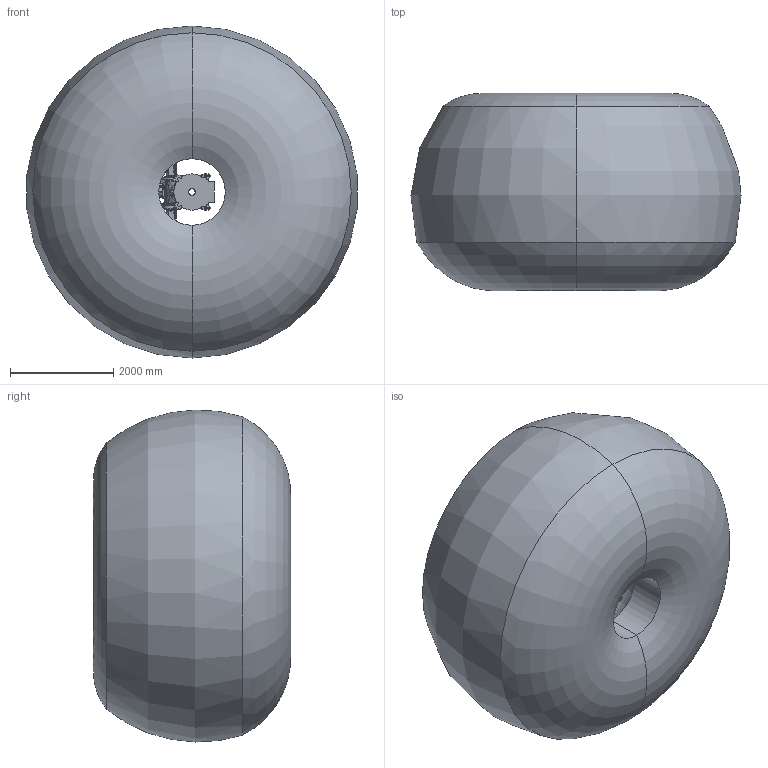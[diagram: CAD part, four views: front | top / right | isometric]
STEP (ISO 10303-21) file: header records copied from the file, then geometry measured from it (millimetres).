
FILE_DESCRIPTION (( 'STEP AP214' ), '1' );
FILE_NAME ('SMART-5 NJ-100-3.2P (3D-STEP).STEP', '2012-07-18T13:05:19', ( '' ), ( '' ), 'SwSTEP 2.0', 'SolidWorks 2007', '' );
FILE_SCHEMA (( 'AUTOMOTIVE_DESIGN' ));
Length unit declared in the file: millimetre
Products named in the file (17): SMART-5 NJ-100-3.2 P_p03; SMART-5 NJ-100-3.2 P_p01; SMART-5 NJ-100-3.2 P_p02; SMART-5 NJ-100-3.2 P_p05; SMART-5 NJ-100-3.2 P_p04; SMART-5 NJ-100-3.2 P_p06; SMART-5 NJ-100-3.2 P_p09; SMART-5 NJ-100-3.2 P_p08; SMART-5 NJ-100-3.2 P_p07; SMART-5 NJ-100-3.2 P_p10; SMART-5 NJ-100-3.2 P_p11; SMART-5 NJ-100-3.2 P_CR82350096; SMART-5 NJ-100-3.2 P_CR82350090; Operation Area SMART-5 NJ-100-3.2 P; SMART-5 NJ-100-3.2 P_CR82350040; SMART-5 NJ-100-3.2 P_CR82350050; SMART-5 NJ-100-3.2P (3D-STEP)
Assembly tree (17 placements, depth 2):
  SMART-5 NJ-100-3.2P (3D-STEP)
    SMART-5 NJ-100-3.2 P_p07
    SMART-5 NJ-100-3.2 P_p04
    Operation Area SMART-5 NJ-100-3.2 P
    SMART-5 NJ-100-3.2 P_CR82350050
    SMART-5 NJ-100-3.2 P_p11
    SMART-5 NJ-100-3.2 P_p08
    SMART-5 NJ-100-3.2 P_p03
    SMART-5 NJ-100-3.2 P_p05
    SMART-5 NJ-100-3.2 P_p02
    SMART-5 NJ-100-3.2 P_CR82350040
    SMART-5 NJ-100-3.2 P_p06
    SMART-5 NJ-100-3.2 P_CR82350096  x2
    SMART-5 NJ-100-3.2 P_p10
    SMART-5 NJ-100-3.2 P_p09
    SMART-5 NJ-100-3.2 P_p01
    SMART-5 NJ-100-3.2 P_CR82350090
Bounding box: 6381.94 x 3810.28 x 6417.09 mm (x, y, z)
Volume: 89581383777.4 mm3; surface area: 144307232.6 mm2
Topology: 17 solids, 23 shells, 5461 faces, 14949 edges, 9731 vertices
Faces by surface type: plane 3287, cylinder 1627, cone 286, bspline 166, torus 87, sphere 8
Entity records: 166022 total; most frequent: CARTESIAN_POINT 47863, ORIENTED_EDGE 23310, DIRECTION 22151, EDGE_CURVE 11655, VERTEX_POINT 7643, AXIS2_PLACEMENT_3D 7398, VECTOR 7355, LINE 7355
